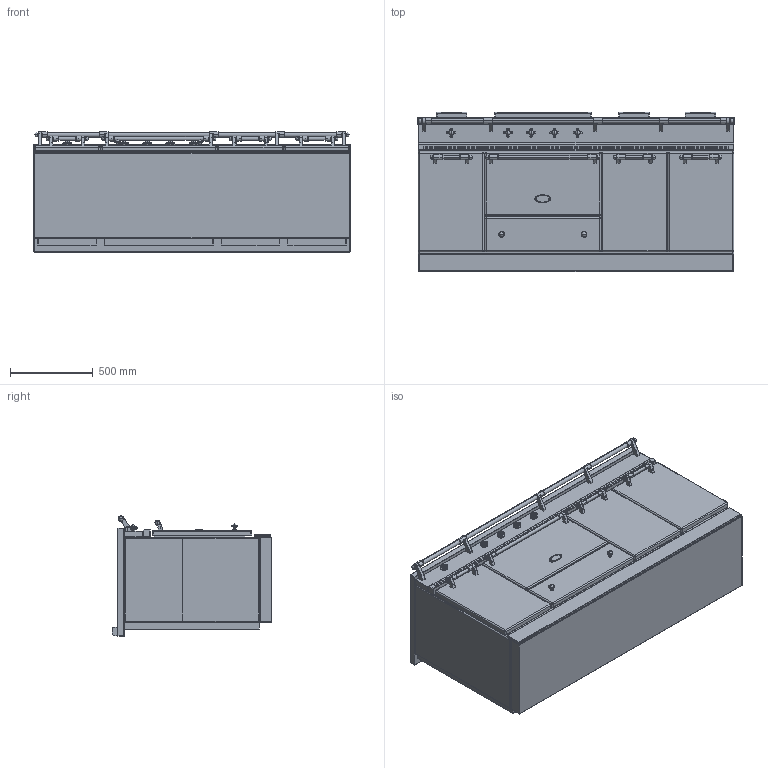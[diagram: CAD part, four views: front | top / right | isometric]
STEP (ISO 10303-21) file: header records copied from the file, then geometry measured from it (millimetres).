
FILE_DESCRIPTION((''),'2;1');
FILE_NAME('LVI1932D_ASM','2021-12-02T16:03:36',('r.avril'),(''),'CREO PARAMETRIC BY PTC INC, 2017260','CREO PARAMETRIC BY PTC INC, 2017260','');
FILE_SCHEMA(('AP203_CONFIGURATION_CONTROLLED_3D_DESIGN_OF_MECHANICAL_PARTS_AND_ASSEMBLIES_MIM_LF { 1 0 10303 403 2 1 2 }'));
Products named in the file (21): BASE_EXPORT_FONTENAY_LVI1931D; 65650003; 65650004; 65650006; 65650007; 6531940; 6531941; 6531943; 65049009; 65650001; 6538399; 1931942; 65080022_AF0; 6531942_ASM; BASE_EXPORT_CITEAUX_LVI1932D_ASM; TABLE_1900D_INDUCTION_ET_VTR; 65052012; CHEMINEE_2020_LG582_EXPORT_STEP; CHEMINEE_2020_LG182_EXPORT_STEP; TABLE_1900D_INDUCTION_ASM; LVI1932D_ASM
Assembly tree (34 placements, depth 4):
  LVI1932D_ASM
    BASE_EXPORT_CITEAUX_LVI1932D_ASM
      BASE_EXPORT_FONTENAY_LVI1931D
      65650003
      65650004
      65650006  x2
      65650007
      6531940  x4
      6531941  x4
      6531943  x2
      65049009
      65650001
      6531942_ASM  x5
        6538399
        1931942
        65080022_AF0
    TABLE_1900D_INDUCTION_ASM
      TABLE_1900D_INDUCTION_ET_VTR
      65052012
      CHEMINEE_2020_LG582_EXPORT_STEP
      CHEMINEE_2020_LG182_EXPORT_STEP  x3
Bounding box: 1905 x 963 x 724 mm (x, y, z)
Volume: 702657434.6 mm3; surface area: 16459709.7 mm2
Topology: 48 solids, 63 shells, 5422 faces, 14655 edges, 9378 vertices
Faces by surface type: plane 2747, cylinder 1883, torus 258, sphere 170, extrusion 142, bspline 111, cone 91, revolution 20
Entity records: 126537 total; most frequent: CARTESIAN_POINT 26936, ORIENTED_EDGE 17664, DIRECTION 17516, EDGE_CURVE 8846, VECTOR 5924, LINE 5894, AXIS2_PLACEMENT_3D 5762, VERTEX_POINT 5715
